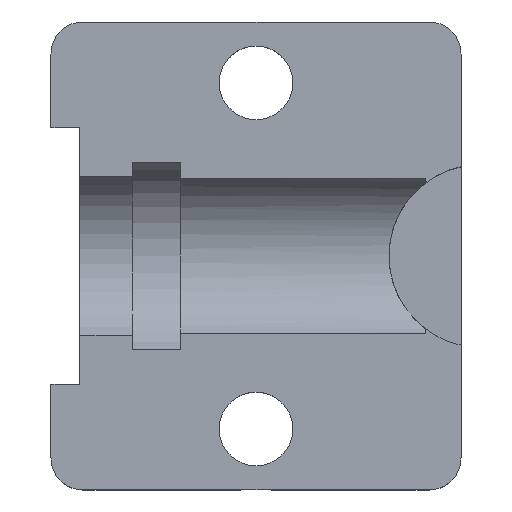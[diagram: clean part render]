
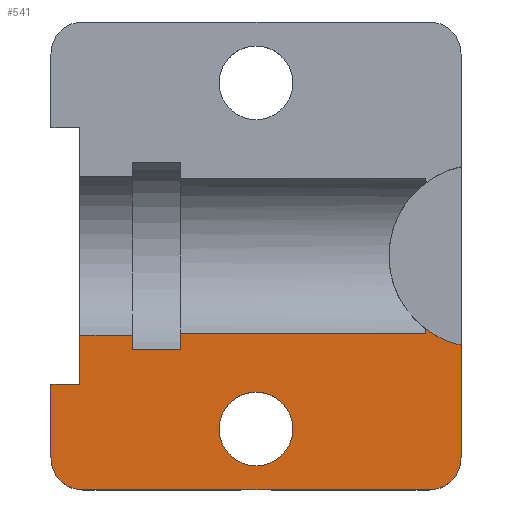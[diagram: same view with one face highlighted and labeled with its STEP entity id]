
A CAD part, top view. The second image highlights one B-rep face of the part: STEP entity #541.
In plain terms, the highlighted planar face has unit normal (0, 0, 1).
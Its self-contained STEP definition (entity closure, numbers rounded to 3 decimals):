
#30=FACE_BOUND('',#90,.T.);
#40=CIRCLE('',#592,1.);
#41=CIRCLE('',#593,1.);
#42=CIRCLE('',#594,2.85);
#43=CIRCLE('',#595,1.15);
#61=FACE_OUTER_BOUND('',#89,.T.);
#89=EDGE_LOOP('',(#384,#385,#386,#387,#388,#389,#390,#391,#392,#393,#394,
#395,#396,#397));
#90=EDGE_LOOP('',(#398));
#118=LINE('',#805,#171);
#130=LINE('',#844,#183);
#131=LINE('',#849,#184);
#132=LINE('',#853,#185);
#133=LINE('',#857,#186);
#134=LINE('',#859,#187);
#135=LINE('',#861,#188);
#136=LINE('',#863,#189);
#137=LINE('',#865,#190);
#138=LINE('',#867,#191);
#139=LINE('',#868,#192);
#171=VECTOR('',#640,1.);
#183=VECTOR('',#672,1.);
#184=VECTOR('',#677,1.);
#185=VECTOR('',#680,1.);
#186=VECTOR('',#683,1.);
#187=VECTOR('',#684,1.);
#188=VECTOR('',#685,1.);
#189=VECTOR('',#686,1.);
#190=VECTOR('',#687,1.);
#191=VECTOR('',#688,1.);
#192=VECTOR('',#689,1.);
#224=VERTEX_POINT('',#802);
#225=VERTEX_POINT('',#804);
#242=VERTEX_POINT('',#842);
#243=VERTEX_POINT('',#846);
#244=VERTEX_POINT('',#848);
#245=VERTEX_POINT('',#850);
#246=VERTEX_POINT('',#852);
#247=VERTEX_POINT('',#854);
#248=VERTEX_POINT('',#856);
#249=VERTEX_POINT('',#858);
#250=VERTEX_POINT('',#860);
#251=VERTEX_POINT('',#862);
#252=VERTEX_POINT('',#864);
#253=VERTEX_POINT('',#866);
#254=VERTEX_POINT('',#869);
#278=EDGE_CURVE('',#224,#225,#118,.T.);
#298=EDGE_CURVE('',#242,#225,#130,.T.);
#299=EDGE_CURVE('',#224,#243,#40,.T.);
#300=EDGE_CURVE('',#243,#244,#131,.T.);
#301=EDGE_CURVE('',#244,#245,#41,.T.);
#302=EDGE_CURVE('',#245,#246,#132,.T.);
#303=EDGE_CURVE('',#247,#246,#42,.T.);
#304=EDGE_CURVE('',#248,#247,#133,.T.);
#305=EDGE_CURVE('',#249,#248,#134,.T.);
#306=EDGE_CURVE('',#250,#249,#135,.T.);
#307=EDGE_CURVE('',#251,#250,#136,.T.);
#308=EDGE_CURVE('',#251,#252,#137,.T.);
#309=EDGE_CURVE('',#253,#252,#138,.T.);
#310=EDGE_CURVE('',#242,#253,#139,.T.);
#311=EDGE_CURVE('',#254,#254,#43,.T.);
#384=ORIENTED_EDGE('',*,*,#278,.F.);
#385=ORIENTED_EDGE('',*,*,#299,.T.);
#386=ORIENTED_EDGE('',*,*,#300,.T.);
#387=ORIENTED_EDGE('',*,*,#301,.T.);
#388=ORIENTED_EDGE('',*,*,#302,.T.);
#389=ORIENTED_EDGE('',*,*,#303,.F.);
#390=ORIENTED_EDGE('',*,*,#304,.F.);
#391=ORIENTED_EDGE('',*,*,#305,.F.);
#392=ORIENTED_EDGE('',*,*,#306,.F.);
#393=ORIENTED_EDGE('',*,*,#307,.F.);
#394=ORIENTED_EDGE('',*,*,#308,.T.);
#395=ORIENTED_EDGE('',*,*,#309,.F.);
#396=ORIENTED_EDGE('',*,*,#310,.F.);
#397=ORIENTED_EDGE('',*,*,#298,.T.);
#398=ORIENTED_EDGE('',*,*,#311,.F.);
#525=PLANE('',#591);
#541=ADVANCED_FACE('',(#61,#30),#525,.T.);
#591=AXIS2_PLACEMENT_3D('',#845,#673,#674);
#592=AXIS2_PLACEMENT_3D('',#847,#675,#676);
#593=AXIS2_PLACEMENT_3D('',#851,#678,#679);
#594=AXIS2_PLACEMENT_3D('',#855,#681,#682);
#595=AXIS2_PLACEMENT_3D('',#870,#690,#691);
#640=DIRECTION('',(0.,1.,0.));
#672=DIRECTION('',(-1.,0.,0.));
#673=DIRECTION('center_axis',(0.,0.,1.));
#674=DIRECTION('ref_axis',(1.,0.,0.));
#675=DIRECTION('center_axis',(0.,0.,1.));
#676=DIRECTION('ref_axis',(1.,0.,0.));
#677=DIRECTION('',(1.,0.,0.));
#678=DIRECTION('center_axis',(0.,0.,1.));
#679=DIRECTION('ref_axis',(1.,0.,0.));
#680=DIRECTION('',(0.,1.,0.));
#681=DIRECTION('center_axis',(0.,0.,1.));
#682=DIRECTION('ref_axis',(1.,0.,0.));
#683=DIRECTION('',(0.,1.,0.));
#684=DIRECTION('',(1.,0.,0.));
#685=DIRECTION('',(0.,1.,0.));
#686=DIRECTION('',(1.,0.,0.));
#687=DIRECTION('',(0.,1.,0.));
#688=DIRECTION('',(1.,0.,0.));
#689=DIRECTION('',(0.,1.,0.));
#690=DIRECTION('center_axis',(0.,0.,1.));
#691=DIRECTION('ref_axis',(1.,0.,0.));
#802=CARTESIAN_POINT('',(-13.4,-4.3,-8.3));
#804=CARTESIAN_POINT('',(-13.4,-2.,-8.3));
#805=CARTESIAN_POINT('',(-13.4,2.,-8.3));
#842=CARTESIAN_POINT('',(-12.5,-2.,-8.3));
#844=CARTESIAN_POINT('',(-11.,-2.,-8.3));
#845=CARTESIAN_POINT('Origin',(-7.,2.,-8.3));
#846=CARTESIAN_POINT('',(-12.4,-5.3,-8.3));
#847=CARTESIAN_POINT('Origin',(-12.4,-4.3,-8.3));
#848=CARTESIAN_POINT('',(-1.6,-5.3,-8.3));
#849=CARTESIAN_POINT('',(-7.,-5.3,-8.3));
#850=CARTESIAN_POINT('',(-0.6,-4.3,-8.3));
#851=CARTESIAN_POINT('Origin',(-1.6,-4.3,-8.3));
#852=CARTESIAN_POINT('',(-0.6,-0.786,-8.3));
#853=CARTESIAN_POINT('',(-0.6,2.,-8.3));
#854=CARTESIAN_POINT('',(-1.7,-0.287,-8.3));
#855=CARTESIAN_POINT('Origin',(0.,2.,-8.3));
#856=CARTESIAN_POINT('',(-1.7,-0.423,-8.3));
#857=CARTESIAN_POINT('',(-1.7,2.,-8.3));
#858=CARTESIAN_POINT('',(-9.35,-0.423,-8.3));
#859=CARTESIAN_POINT('',(-9.35,-0.423,-8.3));
#860=CARTESIAN_POINT('',(-9.35,-0.924,-8.3));
#861=CARTESIAN_POINT('',(-9.35,2.,-8.3));
#862=CARTESIAN_POINT('',(-10.85,-0.924,-8.3));
#863=CARTESIAN_POINT('',(-10.85,-0.924,-8.3));
#864=CARTESIAN_POINT('',(-10.85,-0.48,-8.3));
#865=CARTESIAN_POINT('',(-10.85,2.,-8.3));
#866=CARTESIAN_POINT('',(-12.5,-0.48,-8.3));
#867=CARTESIAN_POINT('',(-15.6,-0.48,-8.3));
#868=CARTESIAN_POINT('',(-12.5,0.,-8.3));
#869=CARTESIAN_POINT('',(-8.15,-3.4,-8.3));
#870=CARTESIAN_POINT('Origin',(-7.,-3.4,-8.3));
